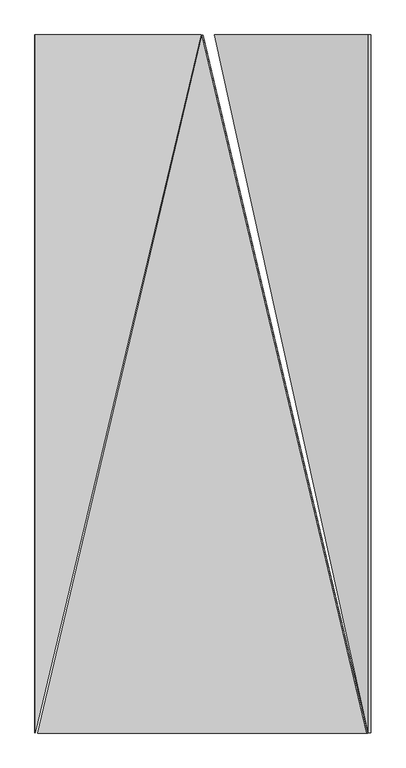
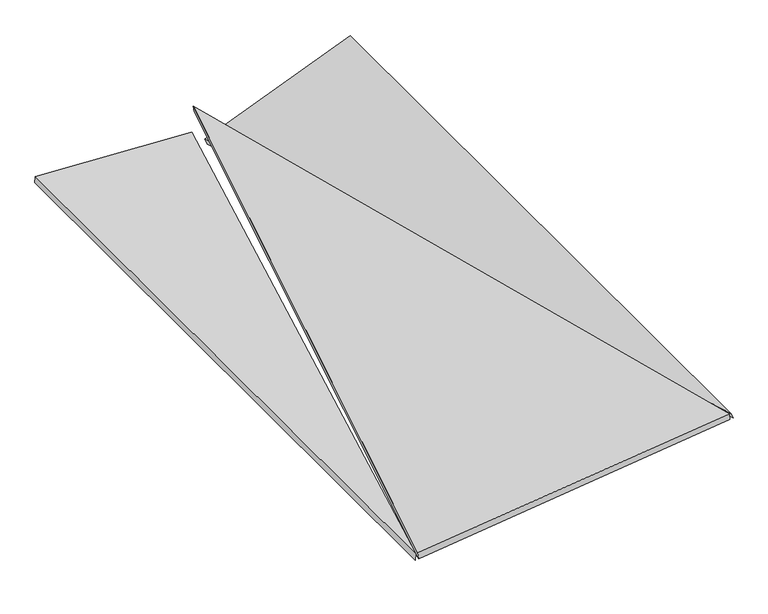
"""IFC4 building model written with IfcOpenShell, lengths in millimetres: proxy geometry, panel sufitowy 6 : panel sufitowy 6."""

from ifc_helpers import new_model, si_unit, frame, origin, place, context, project, spatial, polyline, outline, extrude, source, transform, mapped, element, save


def generic_models_108fd8ef(model_context):
    return source(origin(), model_context, "Body", "SweptSolid", [
        extrude(outline(polyline([(-900.9098917, 1e-07), (1006.1909889, 962.7191946), (1235.4098448, 0.0), (-900.9098917, 1e-07)])), frame((549.9360826, 1457.4151922, 1252.0362608), z_axis=(-0.12186934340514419, 0.0, 0.9925461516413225), x_axis=(-0.22989406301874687, -0.9728062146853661, -0.028227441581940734)), (0.0, 0.0, 1.0), 20.0),
        extrude(outline(polyline([(-127.5, 0.0), (-127.5, -2079.0), (-622.5, 0.0), (-127.5, 0.0)])), frame((1376.2242102, 2335.0, 1386.7389339), z_axis=(-0.3746065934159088, 0.0, 0.9271838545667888), x_axis=(0.9271838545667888, 0.0, 0.3746065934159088)), (0.0, 0.0, 1.0), 20.0),
        extrude(outline(polyline([(-127.4999999, 0.0), (-622.4999999, 0.0), (-127.4999999, 2079.0), (-127.4999999, 0.0)])), frame((128.2113899, 2335.0, 1222.5613908), z_axis=(0.052335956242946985, 0.0, 0.9986295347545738), x_axis=(-0.9986295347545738, 0.0, 0.052335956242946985)), (0.0, 0.0, 1.0), 20.0),
    ])


if __name__ == "__main__":
    model = new_model("IFC4")
    model_context = context("Model", 3, world=origin())
    ifc_project = project(units=[si_unit("LENGTHUNIT", "METRE", prefix="MILLI")], contexts=[model_context])
    site = spatial("IfcSite", under=ifc_project)
    building = spatial("IfcBuilding", under=site)
    placement = place(None, origin())
    generic_models_shape = generic_models_108fd8ef(model_context)
    element("IfcBuildingElementProxy", 1, Name="panel sufitowy 6 : panel sufitowy 6", ObjectType="panel sufitowy 6 : panel sufitowy 6", at=placement, inside=building, context=model_context, shape_type="MappedRepresentation", body=[
        mapped(generic_models_shape, transform((0.0, 0.0, 0.0), x_axis=(1.0, 0.0, 0.0), y_axis=(0.0, 1.0, 0.0), z_axis=(0.0, 0.0, 1.0))),
    ])
    save(model, "model.ifc")
